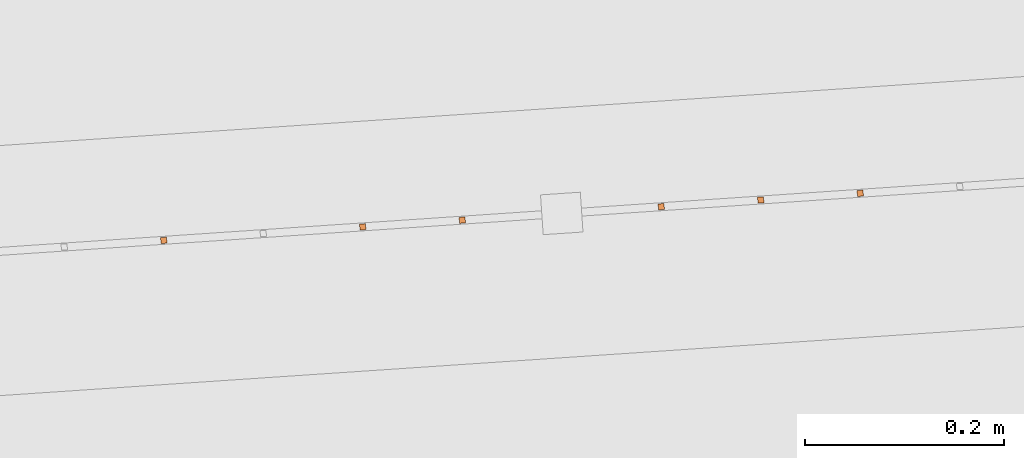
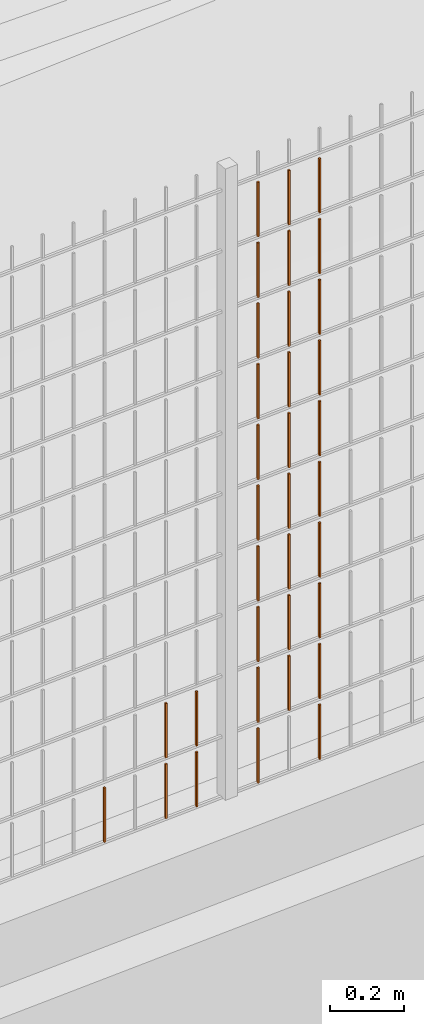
# One storey, part 328 of 1809: 34 proxies, 1 element without a shape of its own.
"""IFC2X3 building model written with IfcOpenShell, lengths in millimetres."""

from ifc_helpers import new_model, entity, si_unit, converted_unit, derived_unit, money_unit, direction, frame, origin_with_axes, place, context, subcontext, project, spatial, faceted_brep, source, transform, mapped, material, type_object, element, aggregate, save


model = new_model("IFC2X3")

# Units and contexts
model_context = context("Model", 3, precision=0.01, world=origin_with_axes(), true_north=direction((0.0, 1.0)))
body_context = subcontext(model_context, "Body", "Model", "MODEL_VIEW")
ifc_project = project(units=[si_unit("LENGTHUNIT", "METRE", prefix="MILLI"), si_unit("AREAUNIT", "SQUARE_METRE"), si_unit("VOLUMEUNIT", "CUBIC_METRE"), converted_unit("PLANEANGLEUNIT", "DEGREE", entity("IfcPlaneAngleMeasure", 0.0174532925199), si_unit("PLANEANGLEUNIT", "RADIAN"), dimensions=[0, 0, 0, 0, 0, 0, 0]), si_unit("SOLIDANGLEUNIT", "STERADIAN"), money_unit("EUR"), converted_unit("TIMEUNIT", "Year", entity("IfcTimeMeasure", 31556926.0), si_unit("TIMEUNIT", "SECOND"), dimensions=[0, 0, 1, 0, 0, 0, 0]), si_unit("MASSUNIT", "GRAM", prefix="KILO"), si_unit("THERMODYNAMICTEMPERATUREUNIT", "DEGREE_CELSIUS"), si_unit("LUMINOUSINTENSITYUNIT", "LUMEN"), si_unit("ENERGYUNIT", "JOULE", prefix="MEGA"), derived_unit("THERMALCONDUCTANCEUNIT", [(si_unit("POWERUNIT", "WATT"), 1), (si_unit("LENGTHUNIT", "METRE"), -1), (si_unit("THERMODYNAMICTEMPERATUREUNIT", "KELVIN"), -1)]), derived_unit("SPECIFICHEATCAPACITYUNIT", [(si_unit("ENERGYUNIT", "JOULE"), 1), (si_unit("MASSUNIT", "GRAM", prefix="KILO"), -1), (si_unit("THERMODYNAMICTEMPERATUREUNIT", "KELVIN"), -1)]), derived_unit("MASSDENSITYUNIT", [(si_unit("MASSUNIT", "GRAM", prefix="KILO"), 1), (si_unit("VOLUMEUNIT", "CUBIC_METRE"), -1)])], contexts=[model_context])

# Site, building, storey
site_placement = place(None, origin_with_axes())
site = spatial("IfcSite", under=ifc_project, at=site_placement, Name="Politse- ja Piirivalveameti ning Päästeameti ühishoone", CompositionType="ELEMENT")
building_placement = place(site_placement, origin_with_axes())
building = spatial("IfcBuilding", under=site, at=building_placement, Name="Politse- ja Piirivalveameti ning Päästeameti ühishoone", CompositionType="ELEMENT")
storey_placement = place(building_placement, origin_with_axes())
storey = spatial("IfcBuildingStorey", under=building, at=storey_placement, Name="Esimene korrus", CompositionType="ELEMENT", Elevation=0.0)

# Proxies
building_element_proxy_type_1 = type_object("IfcBuildingElementProxyType", Name="Railing Type", PredefinedType="NOTDEFINED")
proxy_1_placement = place(storey_placement, frame((89252.001212, -29183.4766571, 203.661247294), z_axis=(0.0, 0.0, 1.0), x_axis=(1.0, 0.0, 0.0)))
proxy_1 = element("IfcBuildingElementProxy", 1, at=proxy_1_placement, inside=storey, type_object=building_element_proxy_type_1, Name="PIIRDEAED")
ifc_material = material(Name="ET-03_Raud")
building_element_proxy_type_2 = type_object("IfcBuildingElementProxyType", Name="IfcBuildingElementProxy", PredefinedType="NOTDEFINED")
shared_shape_1 = source(origin_with_axes(), body_context, "Body", "Brep", [
    faceted_brep([(3.0, 3.0, -0.000752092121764), (-3.0, 3.0, -0.000752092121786), (-3.0, 3.0, 179.99926046), (3.0, 3.0, 179.99926046), (3.0, -3.0, 0.000752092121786), (-3.0, -3.0, 0.000752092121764), (-3.0, -3.0, 180.000764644), (3.0, -3.0, 180.000764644)], [[[0, 1, 2, 3]], [[0, 4, 5, 1]], [[1, 5, 6, 2]], [[3, 2, 6, 7]], [[4, 0, 3, 7]], [[5, 4, 7, 6]]]),
])
proxy_2_placement = place(proxy_1_placement, frame((-34847.2832003, -19651.5772329, 18.4783565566), z_axis=(0.0, 0.0, 1.0), x_axis=(1.0, 0.0, 0.0)))
proxy_2 = element("IfcBuildingElementProxy", 2, at=proxy_2_placement, type_object=building_element_proxy_type_2, material=ifc_material, Name="BALUSTER - 001", context=body_context, shape_type="MappedRepresentation", body=[
    mapped(shared_shape_1, transform((0.0, 0.0, 0.0), x_axis=(-0.0673926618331, 0.997726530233, 0.0), y_axis=(-0.997726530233, -0.0673926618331, 0.0), z_axis=(0.0, 0.0, 1.0))),
])
shared_shape_2 = source(origin_with_axes(), body_context, "Body", "Brep", [
    faceted_brep([(3.0, 3.0, -0.000752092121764), (-3.0, 3.0, -0.000752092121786), (-3.0, 3.0, 179.99926046), (3.0, 3.0, 179.99926046), (3.0, -3.0, 0.000752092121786), (-3.0, -3.0, 0.000752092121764), (-3.0, -3.0, 180.000764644), (3.0, -3.0, 180.000764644)], [[[0, 1, 2, 3]], [[0, 4, 5, 1]], [[1, 5, 6, 2]], [[3, 2, 6, 7]], [[4, 0, 3, 7]], [[5, 4, 7, 6]]]),
])
proxy_3_placement = place(proxy_1_placement, frame((-34847.2832003, -19651.5772329, 218.478356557), z_axis=(0.0, 0.0, 1.0), x_axis=(1.0, 0.0, 0.0)))
proxy_3 = element("IfcBuildingElementProxy", 3, at=proxy_3_placement, type_object=building_element_proxy_type_2, material=ifc_material, Name="BALUSTER - 001", context=body_context, shape_type="MappedRepresentation", body=[
    mapped(shared_shape_2, transform((0.0, 0.0, 0.0), x_axis=(-0.0673926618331, 0.997726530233, 0.0), y_axis=(-0.997726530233, -0.0673926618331, 0.0), z_axis=(0.0, 0.0, 1.0))),
])
shared_shape_3 = source(origin_with_axes(), body_context, "Body", "Brep", [
    faceted_brep([(3.0, 3.0, -0.000752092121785), (-3.0, 3.0, -0.000752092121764), (-3.0, 3.0, 179.99926046), (3.0, 3.0, 179.99926046), (3.0, -3.0, 0.000752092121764), (-3.0, -3.0, 0.000752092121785), (-3.0, -3.0, 180.000764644), (3.0, -3.0, 180.000764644)], [[[0, 1, 2, 3]], [[0, 4, 5, 1]], [[1, 5, 6, 2]], [[3, 2, 6, 7]], [[4, 0, 3, 7]], [[5, 4, 7, 6]]]),
])
proxy_4_placement = place(proxy_1_placement, frame((-34647.7378943, -19638.0987005, 1218.52849603), z_axis=(0.0, 0.0, 1.0), x_axis=(1.0, 0.0, 0.0)))
proxy_4 = element("IfcBuildingElementProxy", 4, at=proxy_4_placement, type_object=building_element_proxy_type_2, material=ifc_material, Name="BALUSTER - 001", context=body_context, shape_type="MappedRepresentation", body=[
    mapped(shared_shape_3, transform((0.0, 0.0, 0.0), x_axis=(-0.0673926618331, 0.997726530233, 0.0), y_axis=(-0.997726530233, -0.0673926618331, 0.0), z_axis=(0.0, 0.0, 1.0))),
])
shared_shape_4 = source(origin_with_axes(), body_context, "Body", "Brep", [
    faceted_brep([(3.0, 3.0, -0.000752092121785), (-3.0, 3.0, -0.000752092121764), (-3.0, 3.0, 179.99926046), (3.0, 3.0, 179.99926046), (3.0, -3.0, 0.000752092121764), (-3.0, -3.0, 0.000752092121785), (-3.0, -3.0, 180.000764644), (3.0, -3.0, 180.000764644)], [[[0, 1, 2, 3]], [[0, 4, 5, 1]], [[1, 5, 6, 2]], [[3, 2, 6, 7]], [[4, 0, 3, 7]], [[5, 4, 7, 6]]]),
])
proxy_5_placement = place(proxy_1_placement, frame((-34647.7378943, -19638.0987005, 1818.52849603), z_axis=(0.0, 0.0, 1.0), x_axis=(1.0, 0.0, 0.0)))
proxy_5 = element("IfcBuildingElementProxy", 5, at=proxy_5_placement, type_object=building_element_proxy_type_2, material=ifc_material, Name="BALUSTER - 001", context=body_context, shape_type="MappedRepresentation", body=[
    mapped(shared_shape_4, transform((0.0, 0.0, 0.0), x_axis=(-0.0673926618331, 0.997726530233, 0.0), y_axis=(-0.997726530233, -0.0673926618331, 0.0), z_axis=(0.0, 0.0, 1.0))),
])
shared_shape_5 = source(origin_with_axes(), body_context, "Body", "Brep", [
    faceted_brep([(3.0, 3.0, -0.000752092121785), (-3.0, 3.0, -0.000752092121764), (-3.0, 3.0, 179.99926046), (3.0, 3.0, 179.99926046), (3.0, -3.0, 0.000752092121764), (-3.0, -3.0, 0.000752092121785), (-3.0, -3.0, 180.000764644), (3.0, -3.0, 180.000764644)], [[[0, 1, 2, 3]], [[0, 4, 5, 1]], [[1, 5, 6, 2]], [[3, 2, 6, 7]], [[4, 0, 3, 7]], [[5, 4, 7, 6]]]),
])
proxy_6_placement = place(proxy_1_placement, frame((-34647.7378943, -19638.0987005, 1418.52849603), z_axis=(0.0, 0.0, 1.0), x_axis=(1.0, 0.0, 0.0)))
proxy_6 = element("IfcBuildingElementProxy", 6, at=proxy_6_placement, type_object=building_element_proxy_type_2, material=ifc_material, Name="BALUSTER - 001", context=body_context, shape_type="MappedRepresentation", body=[
    mapped(shared_shape_5, transform((0.0, 0.0, 0.0), x_axis=(-0.0673926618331, 0.997726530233, 0.0), y_axis=(-0.997726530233, -0.0673926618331, 0.0), z_axis=(0.0, 0.0, 1.0))),
])
proxy_7_placement = place(proxy_1_placement, frame((-34647.7378943, -19638.0987005, 1618.52849603), z_axis=(0.0, 0.0, 1.0), x_axis=(1.0, 0.0, 0.0)))
proxy_7 = element("IfcBuildingElementProxy", 7, at=proxy_7_placement, type_object=building_element_proxy_type_2, material=ifc_material, Name="BALUSTER - 001", context=body_context, shape_type="MappedRepresentation", body=[
    mapped(shared_shape_5, transform((0.0, 0.0, 0.0), x_axis=(-0.0673926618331, 0.997726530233, 0.0), y_axis=(-0.997726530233, -0.0673926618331, 0.0), z_axis=(0.0, 0.0, 1.0))),
])
shared_shape_6 = source(origin_with_axes(), body_context, "Body", "Brep", [
    faceted_brep([(3.0, 3.0, -0.000752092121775), (-3.0, 3.0, -0.000752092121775), (-3.0, 3.0, 179.99926046), (3.0, 3.0, 179.99926046), (3.0, -3.0, 0.000752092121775), (-3.0, -3.0, 0.000752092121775), (-3.0, -3.0, 180.000764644), (3.0, -3.0, 180.000764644)], [[[0, 1, 2, 3]], [[0, 4, 5, 1]], [[1, 5, 6, 2]], [[3, 2, 6, 7]], [[4, 0, 3, 7]], [[5, 4, 7, 6]]]),
])
proxy_8_placement = place(proxy_1_placement, frame((-34547.9652412, -19631.3594343, 218.553565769), z_axis=(0.0, 0.0, 1.0), x_axis=(1.0, 0.0, 0.0)))
proxy_8 = element("IfcBuildingElementProxy", 8, at=proxy_8_placement, type_object=building_element_proxy_type_2, material=ifc_material, Name="BALUSTER - 001", context=body_context, shape_type="MappedRepresentation", body=[
    mapped(shared_shape_6, transform((0.0, 0.0, 0.0), x_axis=(-0.0673926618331, 0.997726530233, 0.0), y_axis=(-0.997726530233, -0.0673926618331, 0.0), z_axis=(0.0, 0.0, 1.0))),
])
proxy_9_placement = place(proxy_1_placement, frame((-34547.9652412, -19631.3594343, 618.553565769), z_axis=(0.0, 0.0, 1.0), x_axis=(1.0, 0.0, 0.0)))
proxy_9 = element("IfcBuildingElementProxy", 9, at=proxy_9_placement, type_object=building_element_proxy_type_2, material=ifc_material, Name="BALUSTER - 001", context=body_context, shape_type="MappedRepresentation", body=[
    mapped(shared_shape_6, transform((0.0, 0.0, 0.0), x_axis=(-0.0673926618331, 0.997726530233, 0.0), y_axis=(-0.997726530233, -0.0673926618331, 0.0), z_axis=(0.0, 0.0, 1.0))),
])
shared_shape_7 = source(origin_with_axes(), body_context, "Body", "Brep", [
    faceted_brep([(3.0, 3.0, -0.000752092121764), (-3.0, 3.0, -0.000752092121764), (-3.0, 3.0, 179.99926046), (3.0, 3.0, 179.99926046), (3.0, -3.0, 0.000752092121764), (-3.0, -3.0, 0.000752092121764), (-3.0, -3.0, 180.000764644), (3.0, -3.0, 180.000764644)], [[[0, 1, 2, 3]], [[0, 4, 5, 1]], [[1, 5, 6, 2]], [[3, 2, 6, 7]], [[4, 0, 3, 7]], [[5, 4, 7, 6]]]),
])
proxy_10_placement = place(proxy_1_placement, frame((-34448.1925882, -19624.6201682, 618.578635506), z_axis=(0.0, 0.0, 1.0), x_axis=(1.0, 0.0, 0.0)))
proxy_10 = element("IfcBuildingElementProxy", 10, at=proxy_10_placement, type_object=building_element_proxy_type_2, material=ifc_material, Name="BALUSTER - 001", context=body_context, shape_type="MappedRepresentation", body=[
    mapped(shared_shape_7, transform((0.0, 0.0, 0.0), x_axis=(-0.0673926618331, 0.997726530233, 0.0), y_axis=(-0.997726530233, -0.0673926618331, 0.0), z_axis=(0.0, 0.0, 1.0))),
])
proxy_11_placement = place(proxy_1_placement, frame((-34448.1925882, -19624.6201682, 1618.57863551), z_axis=(0.0, 0.0, 1.0), x_axis=(1.0, 0.0, 0.0)))
proxy_11 = element("IfcBuildingElementProxy", 11, at=proxy_11_placement, type_object=building_element_proxy_type_2, material=ifc_material, Name="BALUSTER - 001", context=body_context, shape_type="MappedRepresentation", body=[
    mapped(shared_shape_7, transform((0.0, 0.0, 0.0), x_axis=(-0.0673926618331, 0.997726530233, 0.0), y_axis=(-0.997726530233, -0.0673926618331, 0.0), z_axis=(0.0, 0.0, 1.0))),
])
shared_shape_8 = source(origin_with_axes(), body_context, "Body", "Brep", [
    faceted_brep([(3.0, 3.0, -0.000752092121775), (-3.0, 3.0, -0.000752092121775), (-3.0, 3.0, 179.99926046), (3.0, 3.0, 179.99926046), (3.0, -3.0, 0.000752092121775), (-3.0, -3.0, 0.000752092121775), (-3.0, -3.0, 180.000764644), (3.0, -3.0, 180.000764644)], [[[0, 1, 2, 3]], [[0, 4, 5, 1]], [[1, 5, 6, 2]], [[3, 2, 6, 7]], [[4, 0, 3, 7]], [[5, 4, 7, 6]]]),
])
proxy_12_placement = place(proxy_1_placement, frame((-34547.9652412, -19631.3594343, 818.553565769), z_axis=(0.0, 0.0, 1.0), x_axis=(1.0, 0.0, 0.0)))
proxy_12 = element("IfcBuildingElementProxy", 12, at=proxy_12_placement, type_object=building_element_proxy_type_2, material=ifc_material, Name="BALUSTER - 001", context=body_context, shape_type="MappedRepresentation", body=[
    mapped(shared_shape_8, transform((0.0, 0.0, 0.0), x_axis=(-0.0673926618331, 0.997726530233, 0.0), y_axis=(-0.997726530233, -0.0673926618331, 0.0), z_axis=(0.0, 0.0, 1.0))),
])
shared_shape_9 = source(origin_with_axes(), body_context, "Body", "Brep", [
    faceted_brep([(3.0, 3.0, -0.000752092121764), (-3.0, 3.0, -0.000752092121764), (-3.0, 3.0, 179.99926046), (3.0, 3.0, 179.99926046), (3.0, -3.0, 0.000752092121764), (-3.0, -3.0, 0.000752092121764), (-3.0, -3.0, 180.000764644), (3.0, -3.0, 180.000764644)], [[[0, 1, 2, 3]], [[0, 4, 5, 1]], [[1, 5, 6, 2]], [[3, 2, 6, 7]], [[4, 0, 3, 7]], [[5, 4, 7, 6]]]),
])
proxy_13_placement = place(proxy_1_placement, frame((-34448.1925882, -19624.6201682, 1818.57863551), z_axis=(0.0, 0.0, 1.0), x_axis=(1.0, 0.0, 0.0)))
proxy_13 = element("IfcBuildingElementProxy", 13, at=proxy_13_placement, type_object=building_element_proxy_type_2, material=ifc_material, Name="BALUSTER - 001", context=body_context, shape_type="MappedRepresentation", body=[
    mapped(shared_shape_9, transform((0.0, 0.0, 0.0), x_axis=(-0.0673926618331, 0.997726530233, 0.0), y_axis=(-0.997726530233, -0.0673926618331, 0.0), z_axis=(0.0, 0.0, 1.0))),
])
shared_shape_10 = source(origin_with_axes(), body_context, "Body", "Brep", [
    faceted_brep([(3.0, 3.0, -0.000752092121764), (-3.0, 3.0, -0.000752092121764), (-3.0, 3.0, 179.99926046), (3.0, 3.0, 179.99926046), (3.0, -3.0, 0.000752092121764), (-3.0, -3.0, 0.000752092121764), (-3.0, -3.0, 180.000764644), (3.0, -3.0, 180.000764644)], [[[0, 1, 2, 3]], [[0, 4, 5, 1]], [[1, 5, 6, 2]], [[3, 2, 6, 7]], [[4, 0, 3, 7]], [[5, 4, 7, 6]]]),
])
proxy_14_placement = place(proxy_1_placement, frame((-34448.1925882, -19624.6201682, 1418.57863551), z_axis=(0.0, 0.0, 1.0), x_axis=(1.0, 0.0, 0.0)))
proxy_14 = element("IfcBuildingElementProxy", 14, at=proxy_14_placement, type_object=building_element_proxy_type_2, material=ifc_material, Name="BALUSTER - 001", context=body_context, shape_type="MappedRepresentation", body=[
    mapped(shared_shape_10, transform((0.0, 0.0, 0.0), x_axis=(-0.0673926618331, 0.997726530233, 0.0), y_axis=(-0.997726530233, -0.0673926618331, 0.0), z_axis=(0.0, 0.0, 1.0))),
])
shared_shape_11 = source(origin_with_axes(), body_context, "Body", "Brep", [
    faceted_brep([(3.0, 3.0, -0.000752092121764), (-3.0, 3.0, -0.000752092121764), (-3.0, 3.0, 179.99926046), (3.0, 3.0, 179.99926046), (3.0, -3.0, 0.000752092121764), (-3.0, -3.0, 0.000752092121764), (-3.0, -3.0, 180.000764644), (3.0, -3.0, 180.000764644)], [[[0, 1, 2, 3]], [[0, 4, 5, 1]], [[1, 5, 6, 2]], [[3, 2, 6, 7]], [[4, 0, 3, 7]], [[5, 4, 7, 6]]]),
])
proxy_15_placement = place(proxy_1_placement, frame((-34448.1925882, -19624.6201682, 418.578635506), z_axis=(0.0, 0.0, 1.0), x_axis=(1.0, 0.0, 0.0)))
proxy_15 = element("IfcBuildingElementProxy", 15, at=proxy_15_placement, type_object=building_element_proxy_type_2, material=ifc_material, Name="BALUSTER - 001", context=body_context, shape_type="MappedRepresentation", body=[
    mapped(shared_shape_11, transform((0.0, 0.0, 0.0), x_axis=(-0.0673926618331, 0.997726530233, 0.0), y_axis=(-0.997726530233, -0.0673926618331, 0.0), z_axis=(0.0, 0.0, 1.0))),
])
shared_shape_12 = source(origin_with_axes(), body_context, "Body", "Brep", [
    faceted_brep([(3.0, 3.0, -0.000752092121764), (-3.0, 3.0, -0.000752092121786), (-3.0, 3.0, 179.99926046), (3.0, 3.0, 179.99926046), (3.0, -3.0, 0.000752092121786), (-3.0, -3.0, 0.000752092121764), (-3.0, -3.0, 180.000764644), (3.0, -3.0, 180.000764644)], [[[0, 1, 2, 3]], [[0, 4, 5, 1]], [[1, 5, 6, 2]], [[3, 2, 6, 7]], [[4, 0, 3, 7]], [[5, 4, 7, 6]]]),
])
proxy_16_placement = place(proxy_1_placement, frame((-34647.7378943, -19638.0987005, 218.528496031), z_axis=(0.0, 0.0, 1.0), x_axis=(1.0, 0.0, 0.0)))
proxy_16 = element("IfcBuildingElementProxy", 16, at=proxy_16_placement, type_object=building_element_proxy_type_2, material=ifc_material, Name="BALUSTER - 001", context=body_context, shape_type="MappedRepresentation", body=[
    mapped(shared_shape_12, transform((0.0, 0.0, 0.0), x_axis=(-0.0673926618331, 0.997726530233, 0.0), y_axis=(-0.997726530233, -0.0673926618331, 0.0), z_axis=(0.0, 0.0, 1.0))),
])
proxy_17_placement = place(proxy_1_placement, frame((-34647.7378943, -19638.0987005, 418.528496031), z_axis=(0.0, 0.0, 1.0), x_axis=(1.0, 0.0, 0.0)))
proxy_17 = element("IfcBuildingElementProxy", 17, at=proxy_17_placement, type_object=building_element_proxy_type_2, material=ifc_material, Name="BALUSTER - 001", context=body_context, shape_type="MappedRepresentation", body=[
    mapped(shared_shape_12, transform((0.0, 0.0, 0.0), x_axis=(-0.0673926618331, 0.997726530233, 0.0), y_axis=(-0.997726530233, -0.0673926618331, 0.0), z_axis=(0.0, 0.0, 1.0))),
])
shared_shape_13 = source(origin_with_axes(), body_context, "Body", "Brep", [
    faceted_brep([(3.0, 3.0, -0.000752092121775), (-3.0, 3.0, -0.000752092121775), (-3.0, 3.0, 179.99926046), (3.0, 3.0, 179.99926046), (3.0, -3.0, 0.000752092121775), (-3.0, -3.0, 0.000752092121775), (-3.0, -3.0, 180.000764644), (3.0, -3.0, 180.000764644)], [[[0, 1, 2, 3]], [[0, 4, 5, 1]], [[1, 5, 6, 2]], [[3, 2, 6, 7]], [[4, 0, 3, 7]], [[5, 4, 7, 6]]]),
])
proxy_18_placement = place(proxy_1_placement, frame((-34547.9652412, -19631.3594343, 418.553565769), z_axis=(0.0, 0.0, 1.0), x_axis=(1.0, 0.0, 0.0)))
proxy_18 = element("IfcBuildingElementProxy", 18, at=proxy_18_placement, type_object=building_element_proxy_type_2, material=ifc_material, Name="BALUSTER - 001", context=body_context, shape_type="MappedRepresentation", body=[
    mapped(shared_shape_13, transform((0.0, 0.0, 0.0), x_axis=(-0.0673926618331, 0.997726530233, 0.0), y_axis=(-0.997726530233, -0.0673926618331, 0.0), z_axis=(0.0, 0.0, 1.0))),
])
shared_shape_14 = source(origin_with_axes(), body_context, "Body", "Brep", [
    faceted_brep([(3.0, 3.0, -0.000752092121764), (-3.0, 3.0, -0.000752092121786), (-3.0, 3.0, 179.99926046), (3.0, 3.0, 179.99926046), (3.0, -3.0, 0.000752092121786), (-3.0, -3.0, 0.000752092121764), (-3.0, -3.0, 180.000764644), (3.0, -3.0, 180.000764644)], [[[0, 1, 2, 3]], [[0, 4, 5, 1]], [[1, 5, 6, 2]], [[3, 2, 6, 7]], [[4, 0, 3, 7]], [[5, 4, 7, 6]]]),
])
proxy_19_placement = place(proxy_1_placement, frame((-34647.7378943, -19638.0987005, 618.528496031), z_axis=(0.0, 0.0, 1.0), x_axis=(1.0, 0.0, 0.0)))
proxy_19 = element("IfcBuildingElementProxy", 19, at=proxy_19_placement, type_object=building_element_proxy_type_2, material=ifc_material, Name="BALUSTER - 001", context=body_context, shape_type="MappedRepresentation", body=[
    mapped(shared_shape_14, transform((0.0, 0.0, 0.0), x_axis=(-0.0673926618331, 0.997726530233, 0.0), y_axis=(-0.997726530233, -0.0673926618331, 0.0), z_axis=(0.0, 0.0, 1.0))),
])
shared_shape_15 = source(origin_with_axes(), body_context, "Body", "Brep", [
    faceted_brep([(3.0, 3.0, -0.000752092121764), (-3.0, 3.0, -0.000752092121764), (-3.0, 3.0, 179.99926046), (3.0, 3.0, 179.99926046), (3.0, -3.0, 0.000752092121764), (-3.0, -3.0, 0.000752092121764), (-3.0, -3.0, 180.000764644), (3.0, -3.0, 180.000764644)], [[[0, 1, 2, 3]], [[0, 4, 5, 1]], [[1, 5, 6, 2]], [[3, 2, 6, 7]], [[4, 0, 3, 7]], [[5, 4, 7, 6]]]),
])
proxy_20_placement = place(proxy_1_placement, frame((-34448.1925882, -19624.6201682, 818.578635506), z_axis=(0.0, 0.0, 1.0), x_axis=(1.0, 0.0, 0.0)))
proxy_20 = element("IfcBuildingElementProxy", 20, at=proxy_20_placement, type_object=building_element_proxy_type_2, material=ifc_material, Name="BALUSTER - 001", context=body_context, shape_type="MappedRepresentation", body=[
    mapped(shared_shape_15, transform((0.0, 0.0, 0.0), x_axis=(-0.0673926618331, 0.997726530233, 0.0), y_axis=(-0.997726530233, -0.0673926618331, 0.0), z_axis=(0.0, 0.0, 1.0))),
])
proxy_21_placement = place(proxy_1_placement, frame((-34448.1925882, -19624.6201682, 1218.57863551), z_axis=(0.0, 0.0, 1.0), x_axis=(1.0, 0.0, 0.0)))
proxy_21 = element("IfcBuildingElementProxy", 21, at=proxy_21_placement, type_object=building_element_proxy_type_2, material=ifc_material, Name="BALUSTER - 001", context=body_context, shape_type="MappedRepresentation", body=[
    mapped(shared_shape_15, transform((0.0, 0.0, 0.0), x_axis=(-0.0673926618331, 0.997726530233, 0.0), y_axis=(-0.997726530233, -0.0673926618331, 0.0), z_axis=(0.0, 0.0, 1.0))),
])
shared_shape_16 = source(origin_with_axes(), body_context, "Body", "Brep", [
    faceted_brep([(3.0, 3.0, -0.000752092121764), (-3.0, 3.0, -0.000752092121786), (-3.0, 3.0, 179.99926046), (3.0, 3.0, 179.99926046), (3.0, -3.0, 0.000752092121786), (-3.0, -3.0, 0.000752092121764), (-3.0, -3.0, 180.000764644), (3.0, -3.0, 180.000764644)], [[[0, 1, 2, 3]], [[0, 4, 5, 1]], [[1, 5, 6, 2]], [[3, 2, 6, 7]], [[4, 0, 3, 7]], [[5, 4, 7, 6]]]),
])
proxy_22_placement = place(proxy_1_placement, frame((-34547.9652412, -19631.3594343, 1818.55356577), z_axis=(0.0, 0.0, 1.0), x_axis=(1.0, 0.0, 0.0)))
proxy_22 = element("IfcBuildingElementProxy", 22, at=proxy_22_placement, type_object=building_element_proxy_type_2, material=ifc_material, Name="BALUSTER - 001", context=body_context, shape_type="MappedRepresentation", body=[
    mapped(shared_shape_16, transform((0.0, 0.0, 0.0), x_axis=(-0.0673926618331, 0.997726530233, 0.0), y_axis=(-0.997726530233, -0.0673926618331, 0.0), z_axis=(0.0, 0.0, 1.0))),
])
shared_shape_17 = source(origin_with_axes(), body_context, "Body", "Brep", [
    faceted_brep([(3.0, 3.0, -0.000752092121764), (-3.0, 3.0, -0.000752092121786), (-3.0, 3.0, 179.99926046), (3.0, 3.0, 179.99926046), (3.0, -3.0, 0.000752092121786), (-3.0, -3.0, 0.000752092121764), (-3.0, -3.0, 180.000764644), (3.0, -3.0, 180.000764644)], [[[0, 1, 2, 3]], [[0, 4, 5, 1]], [[1, 5, 6, 2]], [[3, 2, 6, 7]], [[4, 0, 3, 7]], [[5, 4, 7, 6]]]),
])
proxy_23_placement = place(proxy_1_placement, frame((-34647.7378943, -19638.0987005, 818.528496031), z_axis=(0.0, 0.0, 1.0), x_axis=(1.0, 0.0, 0.0)))
proxy_23 = element("IfcBuildingElementProxy", 23, at=proxy_23_placement, type_object=building_element_proxy_type_2, material=ifc_material, Name="BALUSTER - 001", context=body_context, shape_type="MappedRepresentation", body=[
    mapped(shared_shape_17, transform((0.0, 0.0, 0.0), x_axis=(-0.0673926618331, 0.997726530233, 0.0), y_axis=(-0.997726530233, -0.0673926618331, 0.0), z_axis=(0.0, 0.0, 1.0))),
])
proxy_24_placement = place(proxy_1_placement, frame((-34547.9652412, -19631.3594343, 1218.55356577), z_axis=(0.0, 0.0, 1.0), x_axis=(1.0, 0.0, 0.0)))
proxy_24 = element("IfcBuildingElementProxy", 24, at=proxy_24_placement, type_object=building_element_proxy_type_2, material=ifc_material, Name="BALUSTER - 001", context=body_context, shape_type="MappedRepresentation", body=[
    mapped(shared_shape_17, transform((0.0, 0.0, 0.0), x_axis=(-0.0673926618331, 0.997726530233, 0.0), y_axis=(-0.997726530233, -0.0673926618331, 0.0), z_axis=(0.0, 0.0, 1.0))),
])
shared_shape_18 = source(origin_with_axes(), body_context, "Body", "Brep", [
    faceted_brep([(3.0, 3.0, -0.000752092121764), (-3.0, 3.0, -0.000752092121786), (-3.0, 3.0, 179.99926046), (3.0, 3.0, 179.99926046), (3.0, -3.0, 0.000752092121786), (-3.0, -3.0, 0.000752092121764), (-3.0, -3.0, 180.000764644), (3.0, -3.0, 180.000764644)], [[[0, 1, 2, 3]], [[0, 4, 5, 1]], [[1, 5, 6, 2]], [[3, 2, 6, 7]], [[4, 0, 3, 7]], [[5, 4, 7, 6]]]),
])
proxy_25_placement = place(proxy_1_placement, frame((-34547.9652412, -19631.3594343, 1418.55356577), z_axis=(0.0, 0.0, 1.0), x_axis=(1.0, 0.0, 0.0)))
proxy_25 = element("IfcBuildingElementProxy", 25, at=proxy_25_placement, type_object=building_element_proxy_type_2, material=ifc_material, Name="BALUSTER - 001", context=body_context, shape_type="MappedRepresentation", body=[
    mapped(shared_shape_18, transform((0.0, 0.0, 0.0), x_axis=(-0.0673926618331, 0.997726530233, 0.0), y_axis=(-0.997726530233, -0.0673926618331, 0.0), z_axis=(0.0, 0.0, 1.0))),
])
proxy_26_placement = place(proxy_1_placement, frame((-34547.9652412, -19631.3594343, 1618.55356577), z_axis=(0.0, 0.0, 1.0), x_axis=(1.0, 0.0, 0.0)))
proxy_26 = element("IfcBuildingElementProxy", 26, at=proxy_26_placement, type_object=building_element_proxy_type_2, material=ifc_material, Name="BALUSTER - 001", context=body_context, shape_type="MappedRepresentation", body=[
    mapped(shared_shape_18, transform((0.0, 0.0, 0.0), x_axis=(-0.0673926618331, 0.997726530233, 0.0), y_axis=(-0.997726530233, -0.0673926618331, 0.0), z_axis=(0.0, 0.0, 1.0))),
])
shared_shape_19 = source(origin_with_axes(), body_context, "Body", "Brep", [
    faceted_brep([(3.0, 3.0, -0.000752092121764), (-3.0, 3.0, -0.000752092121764), (-3.0, 3.0, 179.99926046), (3.0, 3.0, 179.99926046), (3.0, -3.0, 0.000752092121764), (-3.0, -3.0, 0.000752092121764), (-3.0, -3.0, 180.000764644), (3.0, -3.0, 180.000764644)], [[[0, 1, 2, 3]], [[0, 4, 5, 1]], [[1, 5, 6, 2]], [[3, 2, 6, 7]], [[4, 0, 3, 7]], [[5, 4, 7, 6]]]),
])
proxy_27_placement = place(proxy_1_placement, frame((-34947.0558533, -19658.3164991, 18.4532868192), z_axis=(0.0, 0.0, 1.0), x_axis=(1.0, 0.0, 0.0)))
proxy_27 = element("IfcBuildingElementProxy", 27, at=proxy_27_placement, type_object=building_element_proxy_type_2, material=ifc_material, Name="BALUSTER - 001", context=body_context, shape_type="MappedRepresentation", body=[
    mapped(shared_shape_19, transform((0.0, 0.0, 0.0), x_axis=(-0.0673926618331, 0.997726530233, 0.0), y_axis=(-0.997726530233, -0.0673926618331, 0.0), z_axis=(0.0, 0.0, 1.0))),
])
shared_shape_20 = source(origin_with_axes(), body_context, "Body", "Brep", [
    faceted_brep([(3.0, 3.0, -0.000752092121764), (-3.0, 3.0, -0.000752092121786), (-3.0, 3.0, 179.99926046), (3.0, 3.0, 179.99926046), (3.0, -3.0, 0.000752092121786), (-3.0, -3.0, 0.000752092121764), (-3.0, -3.0, 180.000764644), (3.0, -3.0, 180.000764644)], [[[0, 1, 2, 3]], [[0, 4, 5, 1]], [[1, 5, 6, 2]], [[3, 2, 6, 7]], [[4, 0, 3, 7]], [[5, 4, 7, 6]]]),
])
proxy_28_placement = place(proxy_1_placement, frame((-34647.7378943, -19638.0987005, 18.5284960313), z_axis=(0.0, 0.0, 1.0), x_axis=(1.0, 0.0, 0.0)))
proxy_28 = element("IfcBuildingElementProxy", 28, at=proxy_28_placement, type_object=building_element_proxy_type_2, material=ifc_material, Name="BALUSTER - 001", context=body_context, shape_type="MappedRepresentation", body=[
    mapped(shared_shape_20, transform((0.0, 0.0, 0.0), x_axis=(-0.0673926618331, 0.997726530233, 0.0), y_axis=(-0.997726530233, -0.0673926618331, 0.0), z_axis=(0.0, 0.0, 1.0))),
])
shared_shape_21 = source(origin_with_axes(), body_context, "Body", "Brep", [
    faceted_brep([(3.0, 3.0, -0.000752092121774), (-3.0, 3.0, -0.000752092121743), (-3.00000000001, 2.99999999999, 179.99926046), (2.99999999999, 2.99999999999, 179.99926046), (3.0, -3.0, 0.000752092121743), (-3.0, -3.0, 0.000752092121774), (-3.00000000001, -3.00000000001, 180.000764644), (2.99999999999, -3.00000000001, 180.000764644)], [[[0, 1, 2, 3]], [[0, 4, 5, 1]], [[1, 5, 6, 2]], [[3, 2, 6, 7]], [[4, 0, 3, 7]], [[5, 4, 7, 6]]]),
])
proxy_29_placement = place(proxy_1_placement, frame((-34647.7378943, -19638.0987005, 1018.52849603), z_axis=(0.0, 0.0, 1.0), x_axis=(1.0, 0.0, 0.0)))
proxy_29 = element("IfcBuildingElementProxy", 29, at=proxy_29_placement, type_object=building_element_proxy_type_2, material=ifc_material, Name="BALUSTER - 001", context=body_context, shape_type="MappedRepresentation", body=[
    mapped(shared_shape_21, transform((0.0, 0.0, 0.0), x_axis=(-0.0673926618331, 0.997726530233, 0.0), y_axis=(-0.997726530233, -0.0673926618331, 0.0), z_axis=(0.0, 0.0, 1.0))),
])
shared_shape_22 = source(origin_with_axes(), body_context, "Body", "Brep", [
    faceted_brep([(3.0, 3.0, -0.000752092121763), (-3.0, 3.0, -0.000752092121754), (-3.00000000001, 2.99999999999, 179.99926046), (2.99999999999, 2.99999999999, 179.99926046), (3.0, -3.0, 0.000752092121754), (-3.0, -3.0, 0.000752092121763), (-3.00000000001, -3.00000000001, 180.000764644), (2.99999999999, -3.00000000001, 180.000764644)], [[[0, 1, 2, 3]], [[0, 4, 5, 1]], [[1, 5, 6, 2]], [[3, 2, 6, 7]], [[4, 0, 3, 7]], [[5, 4, 7, 6]]]),
])
proxy_30_placement = place(proxy_1_placement, frame((-34547.9652412, -19631.3594343, 1018.55356577), z_axis=(0.0, 0.0, 1.0), x_axis=(1.0, 0.0, 0.0)))
proxy_30 = element("IfcBuildingElementProxy", 30, at=proxy_30_placement, type_object=building_element_proxy_type_2, material=ifc_material, Name="BALUSTER - 001", context=body_context, shape_type="MappedRepresentation", body=[
    mapped(shared_shape_22, transform((0.0, 0.0, 0.0), x_axis=(-0.0673926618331, 0.997726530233, 0.0), y_axis=(-0.997726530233, -0.0673926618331, 0.0), z_axis=(0.0, 0.0, 1.0))),
])
shared_shape_23 = source(origin_with_axes(), body_context, "Body", "Brep", [
    faceted_brep([(3.0, 3.0, -0.000752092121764), (-3.0, 3.0, -0.000752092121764), (-3.0, 3.0, 179.99926046), (3.0, 3.0, 179.99926046), (3.0, -3.0, 0.000752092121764), (-3.0, -3.0, 0.000752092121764), (-3.0, -3.0, 180.000764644), (3.0, -3.0, 180.000764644)], [[[0, 1, 2, 3]], [[0, 4, 5, 1]], [[1, 5, 6, 2]], [[3, 2, 6, 7]], [[4, 0, 3, 7]], [[5, 4, 7, 6]]]),
])
proxy_31_placement = place(proxy_1_placement, frame((-35146.6011594, -19671.7950314, 18.4031473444), z_axis=(0.0, 0.0, 1.0), x_axis=(1.0, 0.0, 0.0)))
proxy_31 = element("IfcBuildingElementProxy", 31, at=proxy_31_placement, type_object=building_element_proxy_type_2, material=ifc_material, Name="BALUSTER - 001", context=body_context, shape_type="MappedRepresentation", body=[
    mapped(shared_shape_23, transform((0.0, 0.0, 0.0), x_axis=(-0.0673926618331, 0.997726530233, 0.0), y_axis=(-0.997726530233, -0.0673926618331, 0.0), z_axis=(0.0, 0.0, 1.0))),
])
shared_shape_24 = source(origin_with_axes(), body_context, "Body", "Brep", [
    faceted_brep([(3.0, 3.0, -0.000752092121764), (-3.0, 3.0, -0.000752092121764), (-3.0, 3.0, 179.99926046), (3.0, 3.0, 179.99926046), (3.0, -3.0, 0.000752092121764), (-3.0, -3.0, 0.000752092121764), (-3.0, -3.0, 180.000764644), (3.0, -3.0, 180.000764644)], [[[0, 1, 2, 3]], [[0, 4, 5, 1]], [[1, 5, 6, 2]], [[3, 2, 6, 7]], [[4, 0, 3, 7]], [[5, 4, 7, 6]]]),
])
proxy_32_placement = place(proxy_1_placement, frame((-34448.1925882, -19624.6201682, 18.5786355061), z_axis=(0.0, 0.0, 1.0), x_axis=(1.0, 0.0, 0.0)))
proxy_32 = element("IfcBuildingElementProxy", 32, at=proxy_32_placement, type_object=building_element_proxy_type_2, material=ifc_material, Name="BALUSTER - 001", context=body_context, shape_type="MappedRepresentation", body=[
    mapped(shared_shape_24, transform((0.0, 0.0, 0.0), x_axis=(-0.0673926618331, 0.997726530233, 0.0), y_axis=(-0.997726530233, -0.0673926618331, 0.0), z_axis=(0.0, 0.0, 1.0))),
])
proxy_33_placement = place(proxy_1_placement, frame((-34448.1925882, -19624.6201682, 218.578635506), z_axis=(0.0, 0.0, 1.0), x_axis=(1.0, 0.0, 0.0)))
proxy_33 = element("IfcBuildingElementProxy", 33, at=proxy_33_placement, type_object=building_element_proxy_type_2, material=ifc_material, Name="BALUSTER - 001", context=body_context, shape_type="MappedRepresentation", body=[
    mapped(shared_shape_24, transform((0.0, 0.0, 0.0), x_axis=(-0.0673926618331, 0.997726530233, 0.0), y_axis=(-0.997726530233, -0.0673926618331, 0.0), z_axis=(0.0, 0.0, 1.0))),
])
shared_shape_25 = source(origin_with_axes(), body_context, "Body", "Brep", [
    faceted_brep([(3.0, 3.0, -0.000752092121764), (-3.0, 3.0, -0.000752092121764), (-3.0, 3.0, 179.99926046), (3.0, 3.0, 179.99926046), (3.0, -3.0, 0.000752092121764), (-3.0, -3.0, 0.000752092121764), (-3.0, -3.0, 180.000764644), (3.0, -3.0, 180.000764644)], [[[0, 1, 2, 3]], [[0, 4, 5, 1]], [[1, 5, 6, 2]], [[3, 2, 6, 7]], [[4, 0, 3, 7]], [[5, 4, 7, 6]]]),
])
proxy_34_placement = place(proxy_1_placement, frame((-34947.0558533, -19658.3164991, 218.453286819), z_axis=(0.0, 0.0, 1.0), x_axis=(1.0, 0.0, 0.0)))
proxy_34 = element("IfcBuildingElementProxy", 34, at=proxy_34_placement, type_object=building_element_proxy_type_2, material=ifc_material, Name="BALUSTER - 001", context=body_context, shape_type="MappedRepresentation", body=[
    mapped(shared_shape_25, transform((0.0, 0.0, 0.0), x_axis=(-0.0673926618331, 0.997726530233, 0.0), y_axis=(-0.997726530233, -0.0673926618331, 0.0), z_axis=(0.0, 0.0, 1.0))),
])
shared_shape_26 = source(origin_with_axes(), body_context, "Body", "Brep", [
    faceted_brep([(3.0, 3.0, -0.000752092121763), (-3.0, 3.0, -0.000752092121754), (-3.00000000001, 2.99999999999, 179.99926046), (2.99999999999, 2.99999999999, 179.99926046), (3.0, -3.0, 0.000752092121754), (-3.0, -3.0, 0.000752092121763), (-3.00000000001, -3.00000000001, 180.000764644), (2.99999999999, -3.00000000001, 180.000764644)], [[[0, 1, 2, 3]], [[0, 4, 5, 1]], [[1, 5, 6, 2]], [[3, 2, 6, 7]], [[4, 0, 3, 7]], [[5, 4, 7, 6]]]),
])
proxy_35_placement = place(proxy_1_placement, frame((-34448.1925882, -19624.6201682, 1018.57863551), z_axis=(0.0, 0.0, 1.0), x_axis=(1.0, 0.0, 0.0)))
proxy_35 = element("IfcBuildingElementProxy", 35, at=proxy_35_placement, type_object=building_element_proxy_type_2, material=ifc_material, Name="BALUSTER - 001", context=body_context, shape_type="MappedRepresentation", body=[
    mapped(shared_shape_26, transform((0.0, 0.0, 0.0), x_axis=(-0.0673926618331, 0.997726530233, 0.0), y_axis=(-0.997726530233, -0.0673926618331, 0.0), z_axis=(0.0, 0.0, 1.0))),
])
aggregate(proxy_1, [proxy_32, proxy_28, proxy_33, proxy_8, proxy_16, proxy_15, proxy_18, proxy_17, proxy_10, proxy_9, proxy_19, proxy_20, proxy_12, proxy_23, proxy_35, proxy_30, proxy_29, proxy_21, proxy_24, proxy_4, proxy_14, proxy_25, proxy_6, proxy_11, proxy_26, proxy_7, proxy_13, proxy_22, proxy_5, proxy_2, proxy_27, proxy_31, proxy_3, proxy_34])

save(model, "model.ifc")
